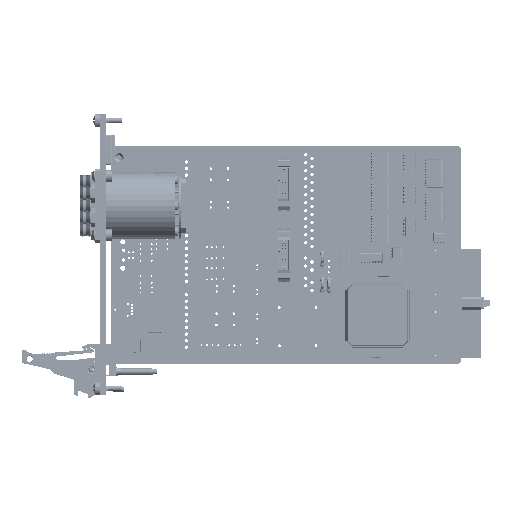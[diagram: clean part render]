
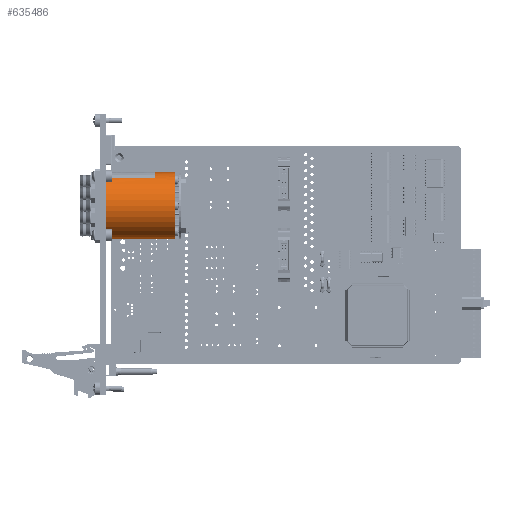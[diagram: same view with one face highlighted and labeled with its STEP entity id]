
A CAD part, top view. The second image highlights one B-rep face of the part: STEP entity #635486.
In plain terms, the highlighted cylindrical face has radius 15.25 mm (diameter 30.5 mm), a full revolution.
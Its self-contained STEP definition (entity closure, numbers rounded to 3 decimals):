
#23022 = CARTESIAN_POINT ( 'NONE',  ( -72.117, 49.136, 14.266 ) ) ;
#23028 = CARTESIAN_POINT ( 'NONE',  ( -106.217, 49.136, 14.266 ) ) ;
#137906 = FACE_BOUND ( 'NONE', #342848, .T. ) ;
#137917 = FACE_OUTER_BOUND ( 'NONE', #342839, .T. ) ;
#137927 = FACE_OUTER_BOUND ( 'NONE', #342844, .T. ) ;
#138021 = CYLINDRICAL_SURFACE ( 'NONE', #356465, 15.25 ) ;
#181539 = VERTEX_POINT ( 'NONE', #518707 ) ;
#181555 = VERTEX_POINT ( 'NONE', #518728 ) ;
#181559 = VERTEX_POINT ( 'NONE', #518737 ) ;
#181571 = VERTEX_POINT ( 'NONE', #518731 ) ;
#234198 = EDGE_CURVE ( 'NONE', #519279, #519279, #376910, .T. ) ;
#234204 = EDGE_CURVE ( 'NONE', #519286, #519286, #376940, .T. ) ;
#234211 = EDGE_CURVE ( 'NONE', #181559, #181555, #376926, .T. ) ;
#234215 = EDGE_CURVE ( 'NONE', #181555, #181571, #376965, .T. ) ;
#234221 = EDGE_CURVE ( 'NONE', #181539, #181571, #377011, .T. ) ;
#234226 = EDGE_CURVE ( 'NONE', #181559, #181539, #377034, .T. ) ;
#239297 = CARTESIAN_POINT ( 'NONE',  ( -72.117, 33.886, 14.266 ) ) ;
#239300 = DIRECTION ( 'NONE',  ( -1., 0., 0. ) ) ;
#239305 = DIRECTION ( 'NONE',  ( 0., 1., 0. ) ) ;
#239333 = CARTESIAN_POINT ( 'NONE',  ( -106.217, 33.886, 14.266 ) ) ;
#239337 = DIRECTION ( 'NONE',  ( 1., 0., 0. ) ) ;
#239341 = DIRECTION ( 'NONE',  ( 0., 1., 0. ) ) ;
#239365 = CARTESIAN_POINT ( 'NONE',  ( -81.277, 33.886, 14.266 ) ) ;
#239371 = DIRECTION ( 'NONE',  ( 1., 0., 0. ) ) ;
#239375 = DIRECTION ( 'NONE',  ( 0., -1., 0. ) ) ;
#239381 = CARTESIAN_POINT ( 'NONE',  ( -81.277, 46.386, 23.002 ) ) ;
#239388 = DIRECTION ( 'NONE',  ( -1., 0., 0. ) ) ;
#239415 = CARTESIAN_POINT ( 'NONE',  ( -102.277, 33.886, 14.266 ) ) ;
#239419 = DIRECTION ( 'NONE',  ( 1., 0., 0. ) ) ;
#239423 = DIRECTION ( 'NONE',  ( 0., -1., 0. ) ) ;
#239433 = CARTESIAN_POINT ( 'NONE',  ( -81.277, 22.992, 3.594 ) ) ;
#239442 = DIRECTION ( 'NONE',  ( -1., 0., 0. ) ) ;
#342839 = EDGE_LOOP ( 'NONE', ( #452597 ) ) ;
#342844 = EDGE_LOOP ( 'NONE', ( #452602 ) ) ;
#342848 = EDGE_LOOP ( 'NONE', ( #452606, #452611, #452616, #452622 ) ) ;
#356465 = AXIS2_PLACEMENT_3D ( 'NONE', #382585, #382743, #382777 ) ;
#376910 = CIRCLE ( 'NONE', #499381, 15.25 ) ;
#376926 = CIRCLE ( 'NONE', #499396, 15.25 ) ;
#376940 = CIRCLE ( 'NONE', #499390, 15.25 ) ;
#376965 = LINE ( 'NONE', #239381, #377004 ) ;
#377004 = VECTOR ( 'NONE', #239388, 1000. ) ;
#377011 = CIRCLE ( 'NONE', #499402, 15.25 ) ;
#377034 = LINE ( 'NONE', #239433, #377054 ) ;
#377054 = VECTOR ( 'NONE', #239442, 1000. ) ;
#382585 = CARTESIAN_POINT ( 'NONE',  ( -71.917, 33.886, 14.266 ) ) ;
#382743 = DIRECTION ( 'NONE',  ( -1., 0., 0. ) ) ;
#382777 = DIRECTION ( 'NONE',  ( 0., -1., 0. ) ) ;
#452597 = ORIENTED_EDGE ( 'NONE', *, *, #234204, .T. ) ;
#452602 = ORIENTED_EDGE ( 'NONE', *, *, #234198, .T. ) ;
#452606 = ORIENTED_EDGE ( 'NONE', *, *, #234211, .T. ) ;
#452611 = ORIENTED_EDGE ( 'NONE', *, *, #234215, .T. ) ;
#452616 = ORIENTED_EDGE ( 'NONE', *, *, #234221, .F. ) ;
#452622 = ORIENTED_EDGE ( 'NONE', *, *, #234226, .F. ) ;
#499381 = AXIS2_PLACEMENT_3D ( 'NONE', #239297, #239300, #239305 ) ;
#499390 = AXIS2_PLACEMENT_3D ( 'NONE', #239333, #239337, #239341 ) ;
#499396 = AXIS2_PLACEMENT_3D ( 'NONE', #239365, #239371, #239375 ) ;
#499402 = AXIS2_PLACEMENT_3D ( 'NONE', #239415, #239419, #239423 ) ;
#518707 = CARTESIAN_POINT ( 'NONE',  ( -102.277, 22.992, 3.594 ) ) ;
#518728 = CARTESIAN_POINT ( 'NONE',  ( -81.277, 46.386, 23.002 ) ) ;
#518731 = CARTESIAN_POINT ( 'NONE',  ( -102.277, 46.386, 23.002 ) ) ;
#518737 = CARTESIAN_POINT ( 'NONE',  ( -81.277, 22.992, 3.594 ) ) ;
#519279 = VERTEX_POINT ( 'NONE', #23022 ) ;
#519286 = VERTEX_POINT ( 'NONE', #23028 ) ;
#635486 = ADVANCED_FACE ( 'NONE', ( #137917, #137927, #137906 ), #138021, .T. ) ;
